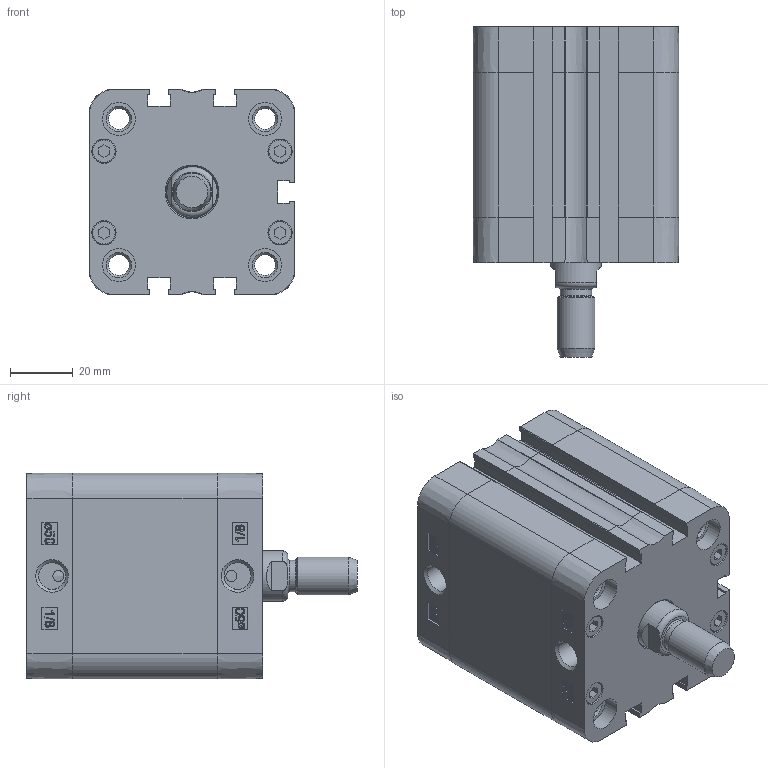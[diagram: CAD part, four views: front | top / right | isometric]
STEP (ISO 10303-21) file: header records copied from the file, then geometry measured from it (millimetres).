
FILE_DESCRIPTION((''),'2;1');
FILE_NAME('T:\Archivio Inventor\- CATALOGHI 2012\SERIE P - NUOVA\PDM\PDM050\PDM050.---.GS.M\PDM050.030.GS.M.stp','2013-02-01T12:18:50',('Administrator'),(''),'Autodesk Inventor 2012','Autodesk Inventor 2012','');
FILE_SCHEMA(('CONFIG_CONTROL_DESIGN'));
Length unit declared in the file: millimetre
Products named in the file (1): PDM050.030.GS.M
Bounding box: 65.5 x 105 x 65.5 mm (x, y, z)
Volume: 175725.3 mm3; surface area: 68034.3 mm2
Topology: 2 solids, 6 shells, 780 faces, 1860 edges, 1167 vertices
Faces by surface type: plane 335, bspline 196, cylinder 131, torus 56, cone 46, sphere 16
Full cylindrical faces by diameter (mm): 3.5 x2, 5.2 x4, 6.647 x8, 7.5 x8, 7.7 x8, 8.047 x4, 8.566 x2, 10 x1, 10.5 x8, 12 x2, 16 x1, 16.5 x1, 50 x1, 52.4 x1, 52.6 x1
Entity records: 25583 total; most frequent: CARTESIAN_POINT 8468, ORIENTED_EDGE 3488, DIRECTION 2866, EDGE_CURVE 1744, VERTEX_POINT 1148, AXIS2_PLACEMENT_3D 978, EDGE_LOOP 962, VECTOR 910
